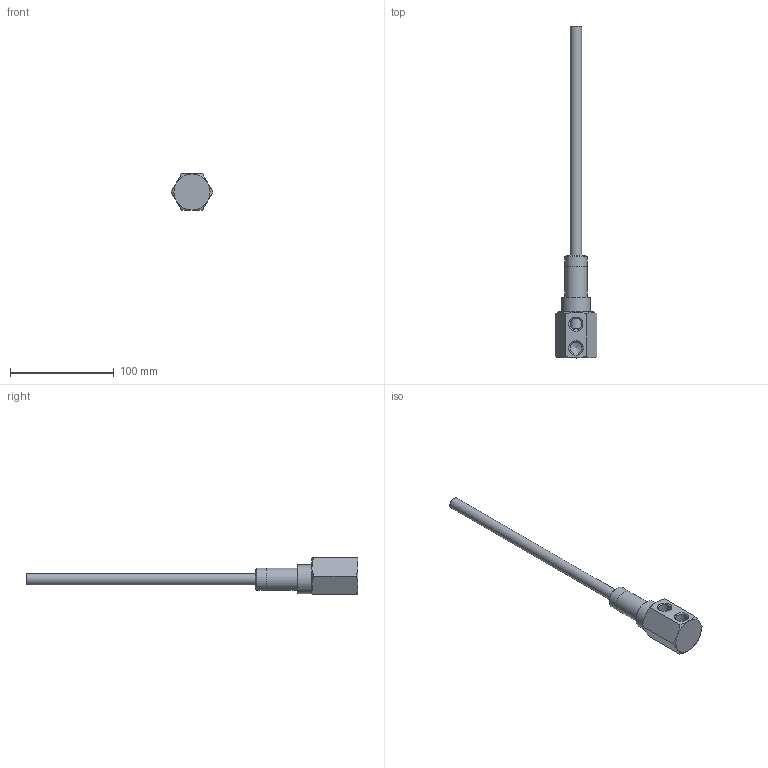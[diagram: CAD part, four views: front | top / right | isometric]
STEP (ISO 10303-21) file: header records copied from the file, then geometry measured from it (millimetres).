
FILE_DESCRIPTION(/* description */ (''),/* implementation_level */ '2;1');
FILE_NAME(/* name */ 'C:/Users/drich/Desktop/HF121N-4 v1.step',/* time_stamp */ '2020-01-15T19:32:28-06:00',/* author */ (''),/* organization */ (''),/* preprocessor_version */ 'ST-DEVELOPER v18',/* originating_system */ 'Autodesk Translation Framework v8.12.0.6',/* authorisation */ '');
FILE_SCHEMA (('AUTOMOTIVE_DESIGN { 1 0 10303 214 3 1 1 }'));
Length unit declared in the file: inch
Products named in the file (4): HF121N-4; HF381H-4; SSPN12-2; HF437T-12
Assembly tree (3 placements, depth 2):
  HF121N-4
    HF381H-4
    SSPN12-2
    HF437T-12
Bounding box: 40.33 x 320.17 x 34.92 mm (x, y, z)
Volume: 52966 mm3; surface area: 38183.4 mm2
Topology: 3 solids, 3 shells, 44 faces, 111 edges, 77 vertices
Faces by surface type: plane 17, cylinder 13, cone 11, torus 3
Full cylindrical faces by diameter (mm): 10.084 x1, 10.846 x1, 11.468 x1, 11.668 x2, 12.565 x1, 12.751 x1, 15.799 x1, 18.901 x1, 21.285 x2, 21.336 x1, 27.762 x1
Entity records: 1583 total; most frequent: CARTESIAN_POINT 368, DIRECTION 254, ORIENTED_EDGE 220, AXIS2_PLACEMENT_3D 112, EDGE_CURVE 110, VERTEX_POINT 77, CIRCLE 61, EDGE_LOOP 57
